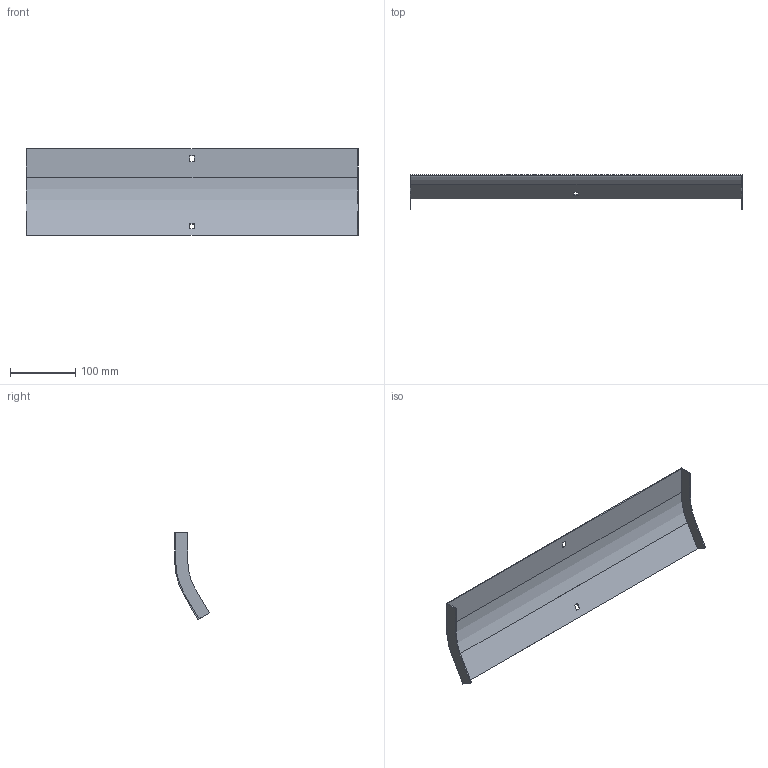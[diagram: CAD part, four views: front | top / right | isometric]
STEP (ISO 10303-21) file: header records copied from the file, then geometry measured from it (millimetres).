
FILE_DESCRIPTION (( 'STEP AP214' ), '1' );
FILE_NAME ('35G1B500.step', '2025-02-21T12:41:36', ( '' ), ( '' ), 'SwSTEP 2.0', 'SolidWorks 2023', '' );
FILE_SCHEMA (( 'AUTOMOTIVE_DESIGN' ));
Length unit declared in the file: millimetre
Products named in the file (1): 35G1B500
Bounding box: 507 x 52.92 x 132.86 mm (x, y, z)
Volume: 114388 mm3; surface area: 154635.5 mm2
Topology: 1 solids, 1 shells, 26 faces, 72 edges, 48 vertices
Faces by surface type: plane 22, cylinder 4
Entity records: 855 total; most frequent: CARTESIAN_POINT 147, ORIENTED_EDGE 144, DIRECTION 134, EDGE_CURVE 72, LINE 64, VECTOR 64, VERTEX_POINT 48, AXIS2_PLACEMENT_3D 35
